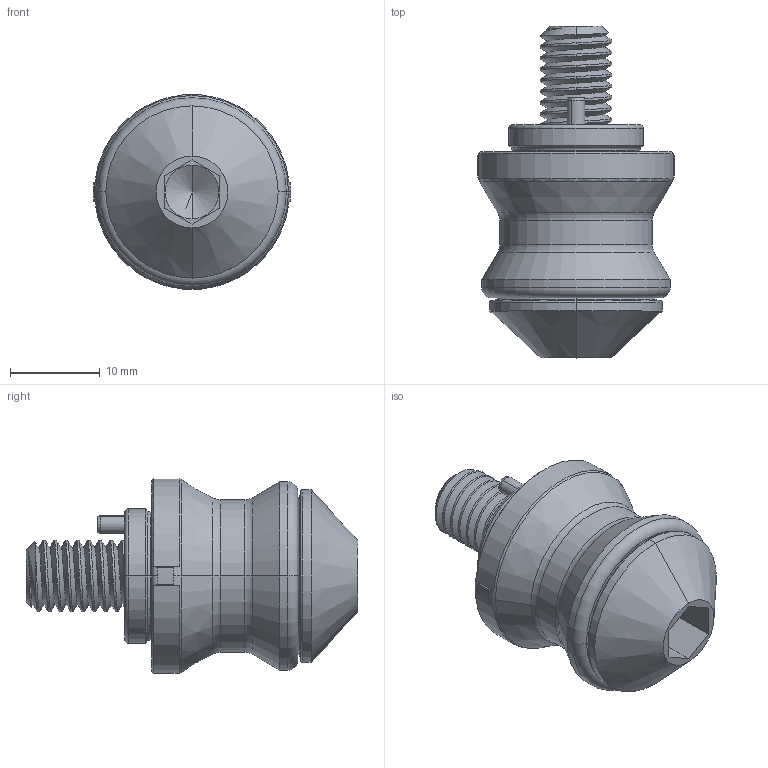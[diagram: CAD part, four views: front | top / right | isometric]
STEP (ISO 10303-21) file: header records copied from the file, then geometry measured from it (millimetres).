
FILE_DESCRIPTION (( 'STEP AP214' ), '1' );
FILE_NAME ('DXJT-10.STEP', '2021-09-28T08:51:13', ( '' ), ( '' ), 'SwSTEP 2.0', 'SolidWorks 2018', '' );
FILE_SCHEMA (( 'AUTOMOTIVE_DESIGN' ));
Length unit declared in the file: millimetre
Products named in the file (3): 蚾饜极4; DXJT-10; 嶺間嘐隅蹟佪
Assembly tree (2 placements, depth 2):
  DXJT-10
    蚾饜极4
    嶺間嘐隅蹟佪
Bounding box: 22 x 37 x 21.67 mm (x, y, z)
Volume: 6693.5 mm3; surface area: 4159.9 mm2
Topology: 3 solids, 3 shells, 185 faces, 447 edges, 278 vertices
Faces by surface type: plane 66, cylinder 51, torus 26, cone 26, bspline 16
Entity records: 9508 total; most frequent: CARTESIAN_POINT 3873, ORIENTED_EDGE 886, DIRECTION 817, EDGE_CURVE 443, AXIS2_PLACEMENT_3D 291, VERTEX_POINT 278, LINE 235, VECTOR 235
